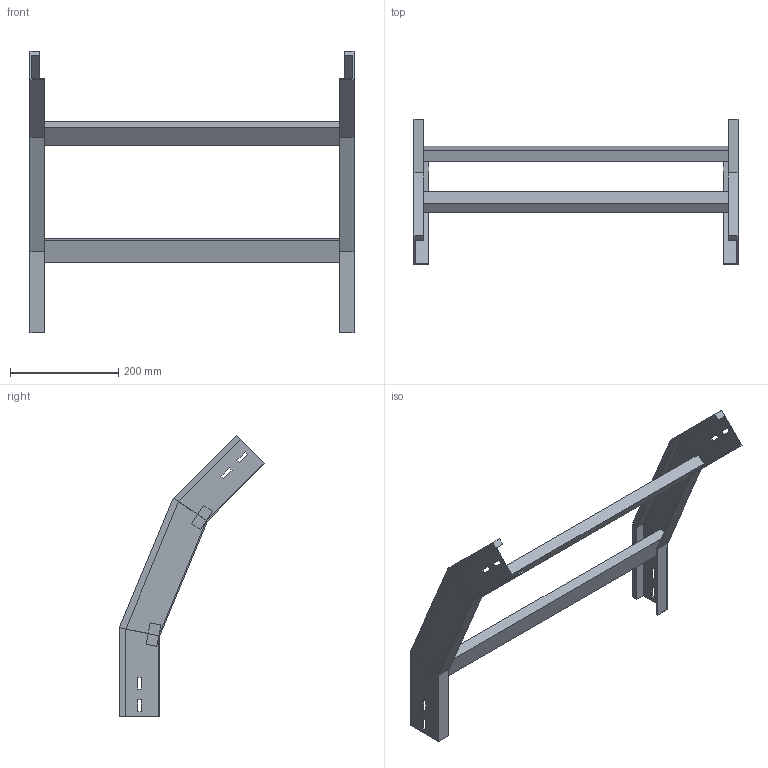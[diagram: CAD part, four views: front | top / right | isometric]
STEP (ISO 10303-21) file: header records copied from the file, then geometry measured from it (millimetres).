
FILE_DESCRIPTION (( 'STEP AP214' ), '1' );
FILE_NAME ('A2_34B3C600.step', '2025-02-21T14:55:04', ( '' ), ( '' ), 'SwSTEP 2.0', 'SolidWorks 2023', '' );
FILE_SCHEMA (( 'AUTOMOTIVE_DESIGN' ));
Length unit declared in the file: millimetre
Products named in the file (3): A2_34B3C600; LONGH.DISCESA_45°_H75_R300; TRAVERSINO_600
Assembly tree (5 placements, depth 2):
  A2_34B3C600
    LONGH.DISCESA_45°_H75_R300  x2
    TRAVERSINO_600  x3
Bounding box: 600 x 269.08 x 521.59 mm (x, y, z)
Volume: 1891448.1 mm3; surface area: 484182.9 mm2
Topology: 5 solids, 5 shells, 102 faces, 244 edges, 152 vertices
Faces by surface type: plane 102
Entity records: 1480 total; most frequent: CARTESIAN_POINT 244, ORIENTED_EDGE 232, DIRECTION 228, VECTOR 116, EDGE_CURVE 116, LINE 116, VERTEX_POINT 72, EDGE_LOOP 56
